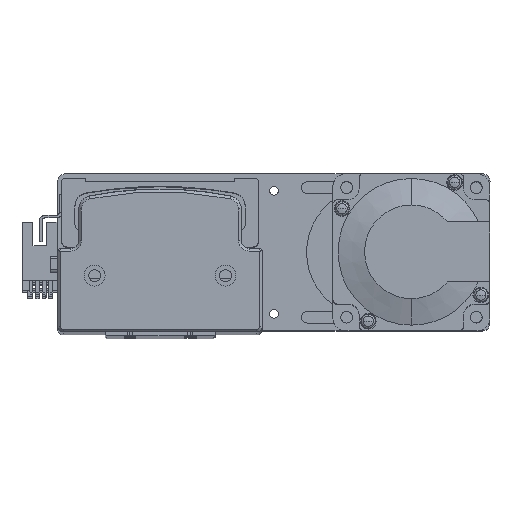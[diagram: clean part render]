
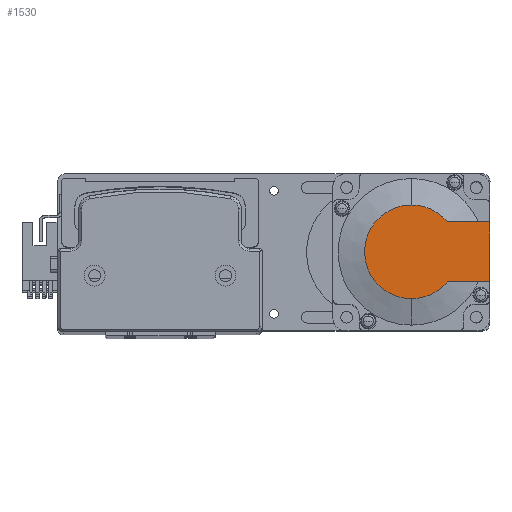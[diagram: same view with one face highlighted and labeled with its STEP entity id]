
A CAD part, top view. The second image highlights one B-rep face of the part: STEP entity #1530.
In plain terms, the highlighted planar face has unit normal (0, 0, 1) as drawn and (-1, 0, 0) by its records, which use the part's own axes.
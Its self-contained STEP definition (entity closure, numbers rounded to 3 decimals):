
#451 = EDGE_CURVE ( 'NONE', #14022, #1079, #6031, .T. ) ;
#938 = DIRECTION ( 'NONE',  ( -1., 0., 0. ) ) ;
#1079 = VERTEX_POINT ( 'NONE', #19300 ) ;
#1337 = DIRECTION ( 'NONE',  ( 0., 0., -1. ) ) ;
#1530 = ADVANCED_FACE ( 'NONE', ( #18246 ), #41637, .T. ) ;
#1578 = LINE ( 'NONE', #27311, #10534 ) ;
#1620 = DIRECTION ( 'NONE',  ( 0., 0., 1. ) ) ;
#2275 = ORIENTED_EDGE ( 'NONE', *, *, #18687, .T. ) ;
#2822 = AXIS2_PLACEMENT_3D ( 'NONE', #23848, #938, #27689 ) ;
#3153 = DIRECTION ( 'NONE',  ( 0., 0., -1. ) ) ;
#6031 = LINE ( 'NONE', #24519, #35329 ) ;
#7552 = CIRCLE ( 'NONE', #13823, 17.881 ) ;
#8185 = CARTESIAN_POINT ( 'NONE',  ( -118.5, -8.941, 0. ) ) ;
#10511 = CIRCLE ( 'NONE', #2822, 17.881 ) ;
#10534 = VECTOR ( 'NONE', #42513, 1000. ) ;
#12090 = DIRECTION ( 'NONE',  ( 0., 0., 1. ) ) ;
#13663 = ORIENTED_EDGE ( 'NONE', *, *, #38544, .T. ) ;
#13823 = AXIS2_PLACEMENT_3D ( 'NONE', #48875, #26034, #3153 ) ;
#14022 = VERTEX_POINT ( 'NONE', #49472 ) ;
#16860 = CARTESIAN_POINT ( 'NONE',  ( -118.5, 13.735, 11.45 ) ) ;
#18246 = FACE_OUTER_BOUND ( 'NONE', #20115, .T. ) ;
#18687 = EDGE_CURVE ( 'NONE', #44709, #49347, #10511, .T. ) ;
#19300 = CARTESIAN_POINT ( 'NONE',  ( -118.5, 30., 11.45 ) ) ;
#19530 = EDGE_CURVE ( 'NONE', #14022, #44709, #27110, .T. ) ;
#19589 = ORIENTED_EDGE ( 'NONE', *, *, #23621, .F. ) ;
#20115 = EDGE_LOOP ( 'NONE', ( #37133, #2275, #13663, #41787, #19589, #36749 ) ) ;
#20543 = CIRCLE ( 'NONE', #49332, 17.881 ) ;
#21097 = EDGE_CURVE ( 'NONE', #34563, #32671, #20543, .T. ) ;
#23621 = EDGE_CURVE ( 'NONE', #1079, #32671, #1578, .T. ) ;
#23848 = CARTESIAN_POINT ( 'NONE',  ( -118.5, 0., 0. ) ) ;
#24233 = DIRECTION ( 'NONE',  ( -1., 0., 0. ) ) ;
#24519 = CARTESIAN_POINT ( 'NONE',  ( -118.5, 30., 25. ) ) ;
#26034 = DIRECTION ( 'NONE',  ( -1., 0., 0. ) ) ;
#27110 = LINE ( 'NONE', #44240, #47425 ) ;
#27311 = CARTESIAN_POINT ( 'NONE',  ( -118.5, 0., 11.45 ) ) ;
#27689 = DIRECTION ( 'NONE',  ( 0., 0., -1. ) ) ;
#31632 = CARTESIAN_POINT ( 'NONE',  ( -118.5, 0., -17.881 ) ) ;
#32671 = VERTEX_POINT ( 'NONE', #16860 ) ;
#34563 = VERTEX_POINT ( 'NONE', #44477 ) ;
#34914 = DIRECTION ( 'NONE',  ( -1., 0., 0. ) ) ;
#35329 = VECTOR ( 'NONE', #1620, 1000. ) ;
#36270 = CARTESIAN_POINT ( 'NONE',  ( -118.5, 13.735, -11.45 ) ) ;
#36749 = ORIENTED_EDGE ( 'NONE', *, *, #451, .F. ) ;
#37133 = ORIENTED_EDGE ( 'NONE', *, *, #19530, .T. ) ;
#38330 = AXIS2_PLACEMENT_3D ( 'NONE', #8185, #34914, #12090 ) ;
#38544 = EDGE_CURVE ( 'NONE', #49347, #34563, #7552, .T. ) ;
#41637 = PLANE ( 'NONE',  #38330 ) ;
#41787 = ORIENTED_EDGE ( 'NONE', *, *, #21097, .T. ) ;
#42513 = DIRECTION ( 'NONE',  ( 0., -1., 0. ) ) ;
#44240 = CARTESIAN_POINT ( 'NONE',  ( -118.5, -8.941, -11.45 ) ) ;
#44477 = CARTESIAN_POINT ( 'NONE',  ( -118.5, 0., 17.881 ) ) ;
#44709 = VERTEX_POINT ( 'NONE', #36270 ) ;
#47079 = CARTESIAN_POINT ( 'NONE',  ( -118.5, 0., 0. ) ) ;
#47425 = VECTOR ( 'NONE', #47929, 1000. ) ;
#47929 = DIRECTION ( 'NONE',  ( 0., -1., 0. ) ) ;
#48875 = CARTESIAN_POINT ( 'NONE',  ( -118.5, 0., 0. ) ) ;
#49332 = AXIS2_PLACEMENT_3D ( 'NONE', #47079, #24233, #1337 ) ;
#49347 = VERTEX_POINT ( 'NONE', #31632 ) ;
#49472 = CARTESIAN_POINT ( 'NONE',  ( -118.5, 30., -11.45 ) ) ;
